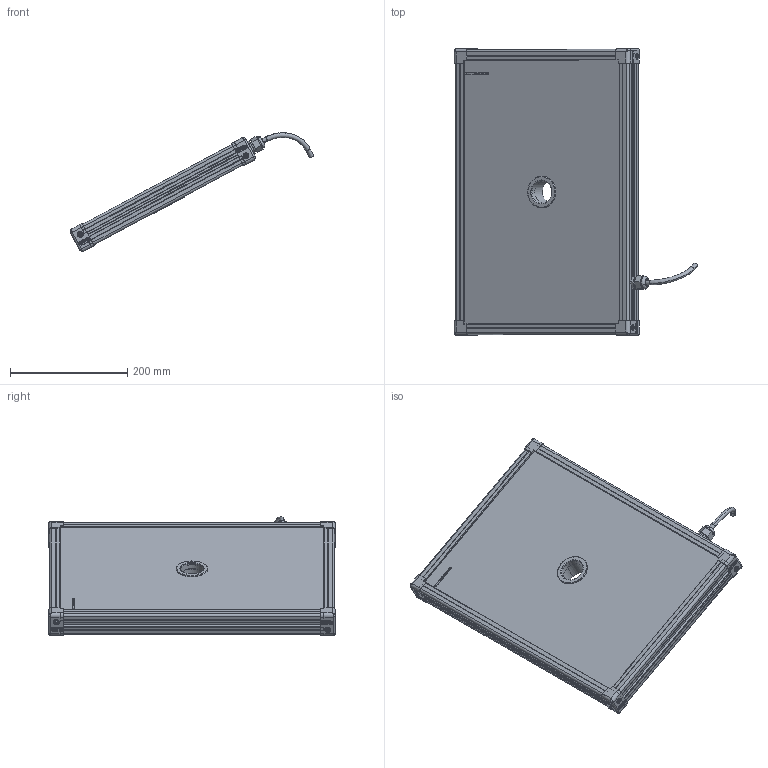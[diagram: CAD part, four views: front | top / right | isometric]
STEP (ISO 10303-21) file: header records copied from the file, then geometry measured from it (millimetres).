
FILE_DESCRIPTION (( 'STEP AP214' ), '1' );
FILE_NAME ('EFFI-FD-300-450-ZZZ-1M12P.STEP', '2021-06-21T08:36:42', ( '' ), ( '' ), 'SwSTEP 2.0', 'SolidWorks 2021', '' );
FILE_SCHEMA (( 'AUTOMOTIVE_DESIGN' ));
Length unit declared in the file: millimetre
Products named in the file (13): petite joue + vis; profile Y_PERCE; 001036; EFFI-FD-300-450-ZZZ-1M12P; profile X_PERCE; assemblage Ø39; 000629; 001035; petite joue; Pièce13^EFFI-FD-XXX-YYY-ZZZ (1 connecteur) M12POWER Ø39; 000590; M12 power_AVEC CABLE D8.1
Assembly tree (19 placements, depth 3):
  EFFI-FD-300-450-ZZZ-1M12P
    profile X_PERCE  x2
    profile Y_PERCE
    profile Y_PERCE
    Pièce13^EFFI-FD-XXX-YYY-ZZZ (1 connecteur) M12POWER Ø39
    petite joue + vis  x4
      petite joue
      000629
    M12 power_AVEC CABLE D8.1
    assemblage Ø39
      001036
      000590  x3
      001035
Bounding box: 414.9 x 489 x 202.6 mm (x, y, z)
Volume: 5681962.3 mm3; surface area: 601072.5 mm2
Topology: 22 solids, 25 shells, 3896 faces, 10381 edges, 6830 vertices
Faces by surface type: plane 2438, cylinder 691, bspline 591, cone 154, torus 22
Entity records: 54477 total; most frequent: CARTESIAN_POINT 22298, ORIENTED_EDGE 6752, DIRECTION 5429, EDGE_CURVE 3378, VECTOR 2403, LINE 2403, VERTEX_POINT 2231, AXIS2_PLACEMENT_3D 1513
